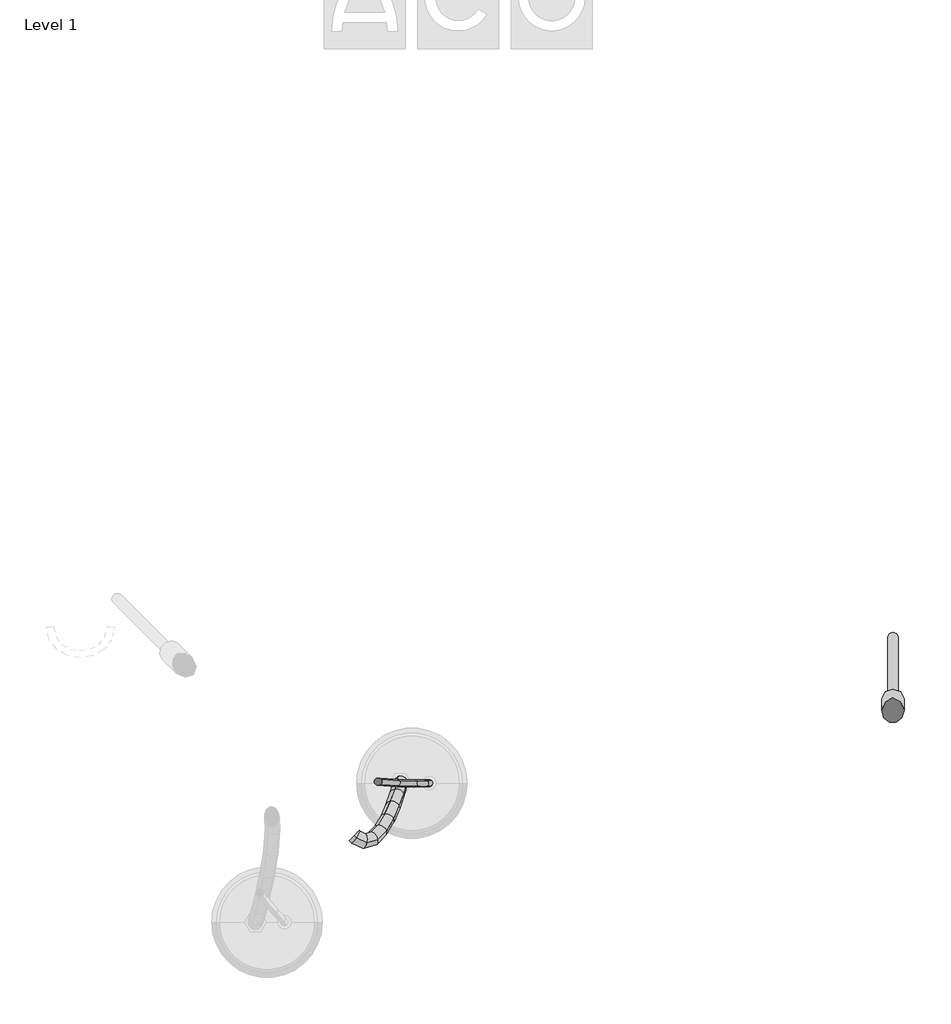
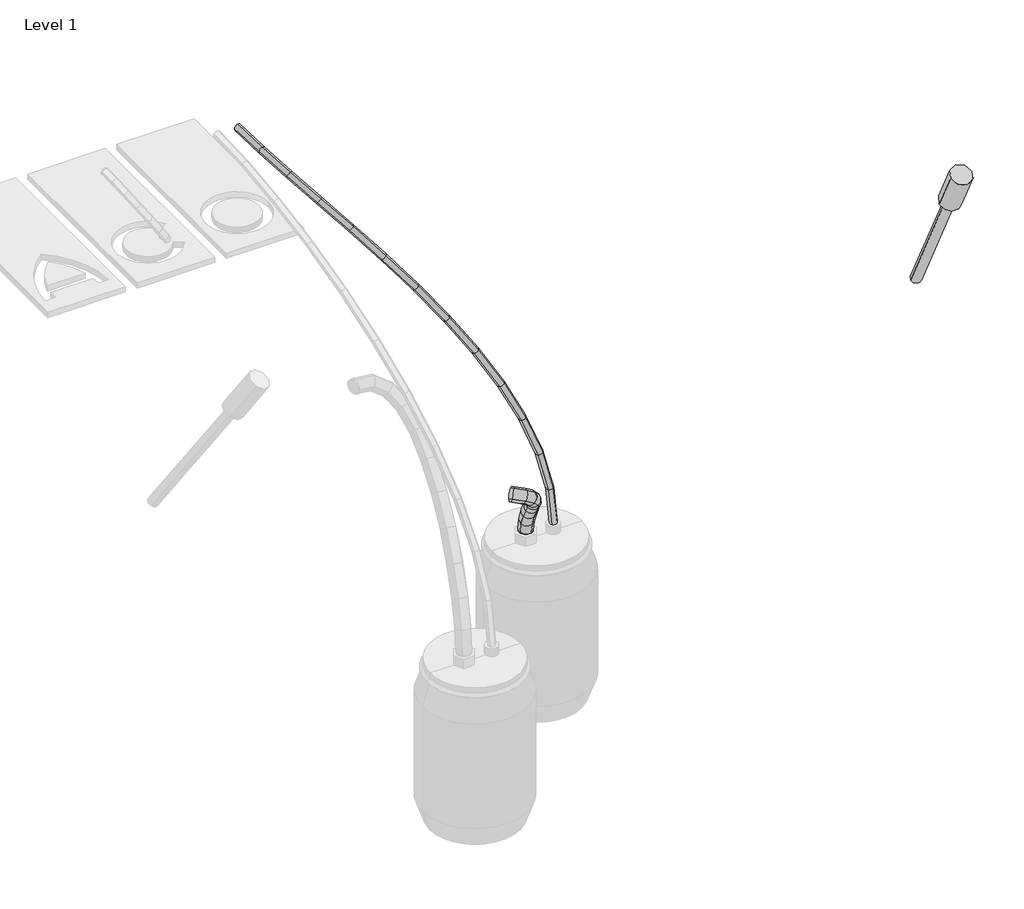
# One storey, part 5 of 6: 2 pipe segments, 1 unitary equipment element.
"""IFC4 building model written with IfcOpenShell, lengths in millimetres."""

from ifc_helpers import new_model, si_unit, frame, origin, place, context, project, spatial, circle_curve, ellipse_curve, transform, mapped, element, save
from ifc_brep_helpers import plane_surface, cylinder_surface, advanced_brep
from components import std_bcf9d813

model = new_model("IFC4")

# Units and contexts
model_context = context("Model", 3, world=origin())
ifc_project = project(units=[si_unit("LENGTHUNIT", "METRE", prefix="MILLI")], contexts=[model_context])

# Site, building, storey
site = spatial("IfcSite", under=ifc_project)
building = spatial("IfcBuilding", under=site)
storey = spatial("IfcBuildingStorey", under=building, Name="Level 1", Elevation=0.0)

# Pipe segments
placement = place(None, origin())
element("IfcPipeSegment", 1, ObjectType="Flex - Round", at=placement, inside=storey, context=model_context, shape_type="AdvancedBrep", body=[
    advanced_brep(
    [(83.9232695, 9731.3828865, 2100.0), (71.335514, 9731.4776729, 2087.5887379), (59.0767305, 9728.6171135, 2100.0), (71.664486, 9728.5223271, 2112.4112621), (97.7160403, 9607.4744445, 2085.0647852), (85.1106413, 9607.7277323, 2072.672628), (73.1897404, 9601.8317785, 2084.718021), (85.7951393, 9601.5784906, 2097.1101783), (909.7093494, 9197.8097262, 628.6281029), (907.7758841, 9180.2401108, 628.362911), (890.2906506, 9182.1902738, 626.6414373), (892.2241159, 9199.7598892, 626.9066292), (135.6816437, 9505.3975849, 2042.8455188), (122.9481285, 9505.9953347, 2030.5958319), (112.9077964, 9495.0431575, 2040.5499573), (125.6413117, 9494.4454077, 2052.7996441), (193.8789391, 9421.4391079, 1975.9243191), (180.9050049, 9422.3836988, 1963.9510906), (173.121516, 9408.1756811, 1971.3100669), (186.0954502, 9407.2310902, 1983.2832954), (268.1241721, 9353.8782932, 1887.1104941), (254.8383235, 9355.1067164, 1875.5103846), (248.9641301, 9339.1613002, 1880.5854186), (262.2499787, 9337.932877, 1892.185528), (353.9561592, 9301.1442983, 1779.5090231), (340.3162648, 9302.5902422, 1768.3527556), (335.8462987, 9285.7820881, 1771.6674095), (349.4861931, 9284.3361441, 1782.823677), (446.803118, 9261.551386, 1656.3522652), (432.7739184, 9263.1633422, 1645.7123913), (429.2892807, 9245.9350125, 1647.7200572), (443.3184803, 9244.3230563, 1658.3599311), (542.0866291, 9233.310396, 1520.882509), (527.6276544, 9235.0497329, 1510.8536699), (524.8209721, 9217.6204646, 1511.8974496), (539.2799469, 9215.8811277, 1521.9262888), (635.2448043, 9214.5778121, 1376.3198976), (620.3056341, 9216.4137084, 1367.0362245), (617.9527378, 9198.8931912, 1367.3758204), (632.891908, 9197.0572949, 1376.6594935), (721.7302609, 9203.4848728, 1225.8566799), (706.2502643, 9205.3901374, 1217.5139104), (704.1814369, 9187.8331845, 1217.359297), (719.6614335, 9185.9279199, 1225.7020665), (797.0023449, 9198.151304, 1072.6528647), (780.9169561, 9200.099465, 1065.5422705), (778.9971999, 9182.5319493, 1065.0842473), (795.0825887, 9180.5837883, 1072.1948416), (856.5136949, 9196.6910839, 919.8266496), (839.7771941, 9198.6552211, 914.3881227), (837.8968649, 9181.086738, 913.8288503), (854.6333658, 9179.1226008, 919.2673772), (895.6807806, 9197.2130041, 770.4421217), (878.3323817, 9199.1689875, 767.3373936), (876.4134388, 9181.5999898, 766.9253954), (893.7618377, 9179.6440064, 770.0301235)],
    [
        (0, 1, circle_curve(frame((71.5, 9730.0, 2100.0), z_axis=(-0.10984554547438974, 0.9868061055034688, 0.11894396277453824), x_axis=(0.9938615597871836, 0.11063091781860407, 0.0)), 12.5)),
        (1, 2, circle_curve(frame((71.5, 9730.0, 2100.0), z_axis=(-0.10984554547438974, 0.9868061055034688, 0.11894396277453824), x_axis=(0.9938615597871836, 0.11063091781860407, 0.0)), 12.5)),
        (2, 3, circle_curve(frame((71.5, 9730.0, 2100.0), z_axis=(-0.10984554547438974, 0.9868061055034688, 0.11894396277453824), x_axis=(0.9938615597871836, 0.11063091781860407, 0.0)), 12.5)),
        (3, 0, circle_curve(frame((71.5, 9730.0, 2100.0), z_axis=(-0.10984554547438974, 0.9868061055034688, 0.11894396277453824), x_axis=(0.9938615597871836, 0.11063091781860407, 0.0)), 12.5)),
        (0, 4),
        (4, 5, ellipse_curve(frame((85.4528903, 9604.6531115, 2084.8914031), z_axis=(-0.22071505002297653, 0.9443722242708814, 0.2438154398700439), x_axis=(0.6268026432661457, 0.32886409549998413, -0.7063758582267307)), 12.6883301, 12.5)),
        (5, 1),
        (5, 6, ellipse_curve(frame((85.4528903, 9604.6531115, 2084.8914031), z_axis=(-0.22071505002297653, 0.9443722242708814, 0.2438154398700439), x_axis=(0.6268026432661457, 0.32886409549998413, -0.7063758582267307)), 12.6883301, 12.5)),
        (6, 2),
        (6, 7, ellipse_curve(frame((85.4528903, 9604.6531115, 2084.8914031), z_axis=(-0.22071505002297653, 0.9443722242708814, 0.2438154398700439), x_axis=(0.6268026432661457, 0.32886409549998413, -0.7063758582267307)), 12.6883301, 12.5)),
        (7, 3),
        (7, 4, ellipse_curve(frame((85.4528903, 9604.6531115, 2084.8914031), z_axis=(-0.22071505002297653, 0.9443722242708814, 0.2438154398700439), x_axis=(0.6268026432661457, 0.32886409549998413, -0.7063758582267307)), 12.6883301, 12.5)),
        (8, 9, circle_curve(frame((900.0, 9190.0, 627.6347701), z_axis=(0.09844095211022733, 0.004187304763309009, -0.9951340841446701), x_axis=(0.7767479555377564, 0.6247780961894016, 0.07946662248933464)), 12.5)),
        (9, 10, circle_curve(frame((900.0, 9190.0, 627.6347701), z_axis=(0.09844095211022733, 0.004187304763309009, -0.9951340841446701), x_axis=(0.7767479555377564, 0.6247780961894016, 0.07946662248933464)), 12.5)),
        (10, 11, circle_curve(frame((900.0, 9190.0, 627.6347701), z_axis=(0.09844095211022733, 0.004187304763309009, -0.9951340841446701), x_axis=(0.7767479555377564, 0.6247780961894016, 0.07946662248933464)), 12.5)),
        (11, 8, circle_curve(frame((900.0, 9190.0, 627.6347701), z_axis=(0.09844095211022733, 0.004187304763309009, -0.9951340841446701), x_axis=(0.7767479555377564, 0.6247780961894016, 0.07946662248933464)), 12.5)),
        (4, 12),
        (12, 13, ellipse_curve(frame((124.2947201, 9500.2203712, 2041.697738), z_axis=(-0.4055025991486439, 0.7898797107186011, 0.4600626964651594), x_axis=(0.49815656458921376, 0.6129514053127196, -0.6132948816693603)), 12.6470867, 12.5)),
        (13, 5),
        (13, 14, ellipse_curve(frame((124.2947201, 9500.2203712, 2041.697738), z_axis=(-0.4055025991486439, 0.7898797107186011, 0.4600626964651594), x_axis=(0.49815656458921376, 0.6129514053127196, -0.6132948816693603)), 12.6470867, 12.5)),
        (14, 6),
        (14, 15, ellipse_curve(frame((124.2947201, 9500.2203712, 2041.697738), z_axis=(-0.4055025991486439, 0.7898797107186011, 0.4600626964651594), x_axis=(0.49815656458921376, 0.6129514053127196, -0.6132948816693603)), 12.6470867, 12.5)),
        (15, 7),
        (15, 12, ellipse_curve(frame((124.2947201, 9500.2203712, 2041.697738), z_axis=(-0.4055025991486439, 0.7898797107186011, 0.4600626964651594), x_axis=(0.49815656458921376, 0.6129514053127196, -0.6132948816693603)), 12.6470867, 12.5)),
        (12, 16),
        (16, 17, ellipse_curve(frame((183.5002276, 9414.8073945, 1973.617193), z_axis=(-0.5186707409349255, 0.5997425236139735, 0.6093353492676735), x_axis=(0.3368835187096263, 0.7983973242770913, -0.49907034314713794)), 12.5832909, 12.5)),
        (17, 13),
        (17, 18, ellipse_curve(frame((183.5002276, 9414.8073945, 1973.617193), z_axis=(-0.5186707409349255, 0.5997425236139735, 0.6093353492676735), x_axis=(0.3368835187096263, 0.7983973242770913, -0.49907034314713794)), 12.5832909, 12.5)),
        (18, 14),
        (18, 19, ellipse_curve(frame((183.5002276, 9414.8073945, 1973.617193), z_axis=(-0.5186707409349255, 0.5997425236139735, 0.6093353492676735), x_axis=(0.3368835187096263, 0.7983973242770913, -0.49907034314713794)), 12.5832909, 12.5)),
        (19, 15),
        (19, 16, ellipse_curve(frame((183.5002276, 9414.8073945, 1973.617193), z_axis=(-0.5186707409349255, 0.5997425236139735, 0.6093353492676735), x_axis=(0.3368835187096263, 0.7983973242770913, -0.49907034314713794)), 12.5832909, 12.5)),
        (16, 20),
        (20, 21, ellipse_curve(frame((258.5441511, 9346.5197967, 1883.8479563), z_axis=(-0.570034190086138, 0.4323628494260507, 0.6986582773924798), x_axis=(0.17353404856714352, 0.8945148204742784, -0.4119820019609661)), 12.5420045, 12.5)),
        (21, 17),
        (21, 22, ellipse_curve(frame((258.5441511, 9346.5197967, 1883.8479563), z_axis=(-0.570034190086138, 0.4323628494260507, 0.6986582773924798), x_axis=(0.17353404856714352, 0.8945148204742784, -0.4119820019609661)), 12.5420045, 12.5)),
        (22, 18),
        (22, 23, ellipse_curve(frame((258.5441511, 9346.5197967, 1883.8479563), z_axis=(-0.570034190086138, 0.4323628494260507, 0.6986582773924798), x_axis=(0.17353404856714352, 0.8945148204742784, -0.4119820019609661)), 12.5420045, 12.5)),
        (23, 19),
        (23, 20, ellipse_curve(frame((258.5441511, 9346.5197967, 1883.8479563), z_axis=(-0.570034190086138, 0.4323628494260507, 0.6986582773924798), x_axis=(0.17353404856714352, 0.8945148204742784, -0.4119820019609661)), 12.5420045, 12.5)),
        (20, 24),
        (24, 25, ellipse_curve(frame((344.9012289, 9293.4631932, 1775.5882163), z_axis=(-0.583706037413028, 0.3037298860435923, 0.7530175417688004), x_axis=(0.006523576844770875, 0.9291257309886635, -0.3697063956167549)), 12.5216083, 12.5)),
        (25, 21),
        (25, 26, ellipse_curve(frame((344.9012289, 9293.4631932, 1775.5882163), z_axis=(-0.583706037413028, 0.3037298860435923, 0.7530175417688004), x_axis=(0.006523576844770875, 0.9291257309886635, -0.3697063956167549)), 12.5216083, 12.5)),
        (26, 22),
        (26, 27, ellipse_curve(frame((344.9012289, 9293.4631932, 1775.5882163), z_axis=(-0.583706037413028, 0.3037298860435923, 0.7530175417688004), x_axis=(0.006523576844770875, 0.9291257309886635, -0.3697063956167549)), 12.5216083, 12.5)),
        (27, 23),
        (27, 24, ellipse_curve(frame((344.9012289, 9293.4631932, 1775.5882163), z_axis=(-0.583706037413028, 0.3037298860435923, 0.7530175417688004), x_axis=(0.006523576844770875, 0.9291257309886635, -0.3697063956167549)), 12.5216083, 12.5)),
        (24, 28),
        (28, 29, ellipse_curve(frame((438.0461994, 9253.7431993, 1652.0361612), z_axis=(-0.5756632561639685, 0.20857025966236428, 0.7906391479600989), x_axis=(-0.1804657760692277, 0.9106712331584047, -0.37163154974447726)), 12.5122446, 12.5)),
        (29, 25),
        (29, 30, ellipse_curve(frame((438.0461994, 9253.7431993, 1652.0361612), z_axis=(-0.5756632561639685, 0.20857025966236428, 0.7906391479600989), x_axis=(-0.1804657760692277, 0.9106712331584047, -0.37163154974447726)), 12.5122446, 12.5)),
        (30, 26),
        (30, 31, ellipse_curve(frame((438.0461994, 9253.7431993, 1652.0361612), z_axis=(-0.5756632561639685, 0.20857025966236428, 0.7906391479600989), x_axis=(-0.1804657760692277, 0.9106712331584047, -0.37163154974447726)), 12.5122446, 12.5)),
        (31, 27),
        (31, 28, ellipse_curve(frame((438.0461994, 9253.7431993, 1652.0361612), z_axis=(-0.5756632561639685, 0.20857025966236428, 0.7906391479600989), x_axis=(-0.1804657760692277, 0.9106712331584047, -0.37163154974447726)), 12.5122446, 12.5)),
        (28, 32),
        (32, 33, ellipse_curve(frame((533.4538006, 9225.4654303, 1516.3899793), z_axis=(-0.553171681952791, 0.13827625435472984, 0.8215112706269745), x_axis=(-0.39475160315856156, 0.8248802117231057, -0.40465270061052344)), 12.5082212, 12.5)),
        (33, 29),
        (33, 34, ellipse_curve(frame((533.4538006, 9225.4654303, 1516.3899793), z_axis=(-0.553171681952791, 0.13827625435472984, 0.8215112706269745), x_axis=(-0.39475160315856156, 0.8248802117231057, -0.40465270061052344)), 12.5082212, 12.5)),
        (34, 30),
        (34, 35, ellipse_curve(frame((533.4538006, 9225.4654303, 1516.3899793), z_axis=(-0.553171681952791, 0.13827625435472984, 0.8215112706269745), x_axis=(-0.39475160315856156, 0.8248802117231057, -0.40465270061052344)), 12.5082212, 12.5)),
        (35, 31),
        (35, 32, ellipse_curve(frame((533.4538006, 9225.4654303, 1516.3899793), z_axis=(-0.553171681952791, 0.13827625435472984, 0.8215112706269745), x_axis=(-0.39475160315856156, 0.8248802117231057, -0.40465270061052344)), 12.5082212, 12.5)),
        (32, 36),
        (36, 37, ellipse_curve(frame((626.5987711, 9206.7355017, 1371.847859), z_axis=(-0.5182051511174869, 0.08608475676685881, 0.8509129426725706), x_axis=(-0.6104265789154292, 0.6596306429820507, -0.43848239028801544)), 12.5071155, 12.5)),
        (37, 33),
        (37, 38, ellipse_curve(frame((626.5987711, 9206.7355017, 1371.847859), z_axis=(-0.5182051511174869, 0.08608475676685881, 0.8509129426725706), x_axis=(-0.6104265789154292, 0.6596306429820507, -0.43848239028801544)), 12.5071155, 12.5)),
        (38, 34),
        (38, 39, ellipse_curve(frame((626.5987711, 9206.7355017, 1371.847859), z_axis=(-0.5182051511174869, 0.08608475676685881, 0.8509129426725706), x_axis=(-0.6104265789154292, 0.6596306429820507, -0.43848239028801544)), 12.5071155, 12.5)),
        (39, 35),
        (39, 36, ellipse_curve(frame((626.5987711, 9206.7355017, 1371.847859), z_axis=(-0.5182051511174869, 0.08608475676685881, 0.8509129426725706), x_axis=(-0.6104265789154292, 0.6596306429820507, -0.43848239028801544)), 12.5071155, 12.5)),
        (36, 40),
        (40, 41, ellipse_curve(frame((712.9558489, 9195.6590286, 1221.6079885), z_axis=(-0.469348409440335, 0.04754089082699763, 0.8817323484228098), x_axis=(-0.7788263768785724, 0.4482592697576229, -0.438740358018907)), 12.5082509, 12.5)),
        (41, 37),
        (41, 42, ellipse_curve(frame((712.9558489, 9195.6590286, 1221.6079885), z_axis=(-0.469348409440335, 0.04754089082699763, 0.8817323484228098), x_axis=(-0.7788263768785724, 0.4482592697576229, -0.438740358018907)), 12.5082509, 12.5)),
        (42, 38),
        (42, 43, ellipse_curve(frame((712.9558489, 9195.6590286, 1221.6079885), z_axis=(-0.469348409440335, 0.04754089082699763, 0.8817323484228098), x_axis=(-0.7788263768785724, 0.4482592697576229, -0.438740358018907)), 12.5082509, 12.5)),
        (43, 39),
        (43, 40, ellipse_curve(frame((712.9558489, 9195.6590286, 1221.6079885), z_axis=(-0.469348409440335, 0.04754089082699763, 0.8817323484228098), x_axis=(-0.7788263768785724, 0.4482592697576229, -0.438740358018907)), 12.5082509, 12.5)),
        (40, 44),
        (44, 45, ellipse_curve(frame((787.9997724, 9190.3416266, 1068.868556), z_axis=(-0.4021935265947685, 0.02008645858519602, 0.9153343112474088), x_axis=(-0.8836167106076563, 0.2532427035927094, -0.393814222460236)), 12.5121635, 12.5)),
        (45, 41),
        (45, 46, ellipse_curve(frame((787.9997724, 9190.3416266, 1068.868556), z_axis=(-0.4021935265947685, 0.02008645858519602, 0.9153343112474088), x_axis=(-0.8836167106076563, 0.2532427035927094, -0.393814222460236)), 12.5121635, 12.5)),
        (46, 42),
        (46, 47, ellipse_curve(frame((787.9997724, 9190.3416266, 1068.868556), z_axis=(-0.4021935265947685, 0.02008645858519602, 0.9153343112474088), x_axis=(-0.8836167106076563, 0.2532427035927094, -0.393814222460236)), 12.5121635, 12.5)),
        (47, 43),
        (47, 44, ellipse_curve(frame((787.9997724, 9190.3416266, 1068.868556), z_axis=(-0.4021935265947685, 0.02008645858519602, 0.9153343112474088), x_axis=(-0.8836167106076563, 0.2532427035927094, -0.393814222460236)), 12.5121635, 12.5)),
        (44, 48),
        (48, 49, ellipse_curve(frame((847.2052799, 9188.888911, 916.8277499), z_axis=(-0.3087482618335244, 0.002766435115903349, 0.9511397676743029), x_axis=(-0.9456599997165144, 0.10633404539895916, -0.3072787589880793)), 12.5209004, 12.5)),
        (49, 45),
        (49, 50, ellipse_curve(frame((847.2052799, 9188.888911, 916.8277499), z_axis=(-0.3087482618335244, 0.002766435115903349, 0.9511397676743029), x_axis=(-0.9456599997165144, 0.10633404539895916, -0.3072787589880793)), 12.5209004, 12.5)),
        (50, 46),
        (50, 51, ellipse_curve(frame((847.2052799, 9188.888911, 916.8277499), z_axis=(-0.3087482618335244, 0.002766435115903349, 0.9511397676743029), x_axis=(-0.9456599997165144, 0.10633404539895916, -0.3072787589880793)), 12.5209004, 12.5)),
        (51, 47),
        (51, 48, ellipse_curve(frame((847.2052799, 9188.888911, 916.8277499), z_axis=(-0.3087482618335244, 0.002766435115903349, 0.9511397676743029), x_axis=(-0.9456599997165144, 0.10633404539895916, -0.3072787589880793)), 12.5209004, 12.5)),
        (48, 52),
        (52, 53, ellipse_curve(frame((886.0471097, 9189.406497, 768.6837586), z_axis=(-0.17657786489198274, -0.003795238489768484, 0.9842793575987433), x_axis=(-0.9842769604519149, 0.005123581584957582, -0.17655767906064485)), 12.5390174, 12.5)),
        (53, 49),
        (53, 54, ellipse_curve(frame((886.0471097, 9189.406497, 768.6837586), z_axis=(-0.17657786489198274, -0.003795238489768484, 0.9842793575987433), x_axis=(-0.9842769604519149, 0.005123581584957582, -0.17655767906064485)), 12.5390174, 12.5)),
        (54, 50),
        (54, 55, ellipse_curve(frame((886.0471097, 9189.406497, 768.6837586), z_axis=(-0.17657786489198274, -0.003795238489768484, 0.9842793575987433), x_axis=(-0.9842769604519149, 0.005123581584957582, -0.17655767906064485)), 12.5390174, 12.5)),
        (55, 51),
        (55, 52, ellipse_curve(frame((886.0471097, 9189.406497, 768.6837586), z_axis=(-0.17657786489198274, -0.003795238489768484, 0.9842793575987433), x_axis=(-0.9842769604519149, 0.005123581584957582, -0.17655767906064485)), 12.5390174, 12.5)),
        (52, 8),
        (11, 53),
        (10, 54),
        (9, 55),
    ],
    [
        plane_surface(frame((71.5, 9731.4958514, 2087.5898256), z_axis=(-0.10984554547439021, 0.9868061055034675, 0.11894396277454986), x_axis=(0.9939486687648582, 0.10905619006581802, 0.01314500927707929))),
        cylinder_surface(frame((71.5, 9730.0, 2100.0), z_axis=(-0.10984554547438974, 0.9868061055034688, 0.11894396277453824), x_axis=(0.9938615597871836, 0.11063091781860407, 0.0)), 12.5),
        plane_surface(frame((900.0, 9202.4998893, 627.6873669), z_axis=(0.09844095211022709, 0.0041873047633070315, -0.9951340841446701), x_axis=(0.9951428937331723, -0.000414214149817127, 0.09844008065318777))),
        cylinder_surface(frame((85.4528903, 9604.6531115, 2084.8914031), z_axis=(-0.32503250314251, 0.8739041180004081, 0.36144911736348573), x_axis=(0.9431485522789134, 0.32761637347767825, 0.05602071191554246)), 12.5),
        cylinder_surface(frame((124.2947201, 9500.2203712, 2041.697738), z_axis=(-0.47654063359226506, 0.6874825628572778, 0.5479751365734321), x_axis=(0.8637522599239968, 0.4822726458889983, 0.1460997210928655)), 12.5),
        cylinder_surface(frame((183.5002276, 9414.8073945, 1973.617193), z_axis=(-0.5539345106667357, 0.5040628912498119, 0.6626289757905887), x_axis=(0.7914081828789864, 0.5659245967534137, 0.2310896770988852)), 12.5),
        cylinder_surface(frame((258.5441511, 9346.5197967, 1883.8479563), z_axis=(-0.5823156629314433, 0.3577667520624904, 0.7300078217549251), x_axis=(0.7401139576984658, 0.6048305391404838, 0.29395807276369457)), 12.5),
        cylinder_surface(frame((344.9012289, 9293.4631932, 1775.5882163), z_axis=(-0.5830818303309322, 0.24864473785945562, 0.7734283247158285), x_axis=(0.7086541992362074, 0.6212005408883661, 0.33454314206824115)), 12.5),
        cylinder_surface(frame((438.0461994, 9253.7431993, 1652.0361612), z_axis=(-0.5671179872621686, 0.16808756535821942, 0.8063025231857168), x_axis=(0.6926745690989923, 0.6269901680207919, 0.3564902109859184)), 12.5),
        cylinder_surface(frame((533.4538006, 9225.4654303, 1516.3899793), z_axis=(-0.5384982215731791, 0.10828317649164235, 0.8356401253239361), x_axis=(0.688681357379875, 0.6279883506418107, 0.36242050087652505)), 12.5),
        cylinder_surface(frame((626.5987711, 9206.7355017, 1371.847859), z_axis=(-0.49732244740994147, 0.06378838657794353, 0.8652175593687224), x_axis=(0.6944544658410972, 0.6270293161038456, 0.3529408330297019)), 12.5),
        cylinder_surface(frame((712.9558489, 9195.6590286, 1221.6079885), z_axis=(-0.44075517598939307, 0.031230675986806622, 0.8970838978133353), x_axis=(0.7085985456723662, 0.6255966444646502, 0.32636932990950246)), 12.5),
        cylinder_surface(frame((787.9997724, 9190.3416266, 1068.868556), z_axis=(-0.36284990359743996, 0.00890318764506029, 0.9318050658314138), x_axis=(0.7297614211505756, 0.6245397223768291, 0.27820568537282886)), 12.5),
        cylinder_surface(frame((847.2052799, 9188.888911, 916.8277499), z_axis=(-0.2536158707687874, -0.003379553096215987, 0.9672991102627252), x_axis=(0.7550958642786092, 0.624312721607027, 0.20015958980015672)), 12.5),
        cylinder_surface(frame((886.0471097, 9189.406497, 768.6837586), z_axis=(-0.09844095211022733, -0.004187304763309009, 0.9951340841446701), x_axis=(0.7767479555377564, 0.6247780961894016, 0.07946662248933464)), 12.5),
    ],
    [
        (0, [[1, 2, 3, 4]]),
        (1, [[-1, 5, 6, 7]]),
        (1, [[-2, -7, 8, 9]]),
        (1, [[-3, -9, 10, 11]]),
        (1, [[-4, -11, 12, -5]]),
        (2, [[13, 14, 15, 16]]),
        (3, [[-6, 17, 18, 19]]),
        (3, [[-8, -19, 20, 21]]),
        (3, [[-10, -21, 22, 23]]),
        (3, [[-12, -23, 24, -17]]),
        (4, [[-18, 25, 26, 27]]),
        (4, [[-20, -27, 28, 29]]),
        (4, [[-22, -29, 30, 31]]),
        (4, [[-24, -31, 32, -25]]),
        (5, [[-26, 33, 34, 35]]),
        (5, [[-28, -35, 36, 37]]),
        (5, [[-30, -37, 38, 39]]),
        (5, [[-32, -39, 40, -33]]),
        (6, [[-34, 41, 42, 43]]),
        (6, [[-36, -43, 44, 45]]),
        (6, [[-38, -45, 46, 47]]),
        (6, [[-40, -47, 48, -41]]),
        (7, [[-42, 49, 50, 51]]),
        (7, [[-44, -51, 52, 53]]),
        (7, [[-46, -53, 54, 55]]),
        (7, [[-48, -55, 56, -49]]),
        (8, [[-50, 57, 58, 59]]),
        (8, [[-52, -59, 60, 61]]),
        (8, [[-54, -61, 62, 63]]),
        (8, [[-56, -63, 64, -57]]),
        (9, [[-58, 65, 66, 67]]),
        (9, [[-60, -67, 68, 69]]),
        (9, [[-62, -69, 70, 71]]),
        (9, [[-64, -71, 72, -65]]),
        (10, [[-66, 73, 74, 75]]),
        (10, [[-68, -75, 76, 77]]),
        (10, [[-70, -77, 78, 79]]),
        (10, [[-72, -79, 80, -73]]),
        (11, [[-74, 81, 82, 83]]),
        (11, [[-76, -83, 84, 85]]),
        (11, [[-78, -85, 86, 87]]),
        (11, [[-80, -87, 88, -81]]),
        (12, [[-82, 89, 90, 91]]),
        (12, [[-84, -91, 92, 93]]),
        (12, [[-86, -93, 94, 95]]),
        (12, [[-88, -95, 96, -89]]),
        (13, [[-90, 97, 98, 99]]),
        (13, [[-92, -99, 100, 101]]),
        (13, [[-94, -101, 102, 103]]),
        (13, [[-96, -103, 104, -97]]),
        (14, [[-98, 105, -16, 106]]),
        (14, [[-100, -106, -15, 107]]),
        (14, [[-102, -107, -14, 108]]),
        (14, [[-104, -108, -13, -105]]),
    ],
),
])
element("IfcPipeSegment", 2, ObjectType="Flex - Round", at=placement, inside=storey, context=model_context, shape_type="AdvancedBrep", body=[
    advanced_brep(
    [(658.9933178, 9026.3620213, 937.0), (641.3156483, 9008.6843517, 912.0), (623.6379787, 8991.0066822, 937.0), (641.3156483, 9008.6843517, 962.0), (660.9472298, 9024.4081092, 937.0), (644.0134256, 9005.9865744, 912.0), (631.5236986, 8983.1209623, 937.0), (648.4575029, 9001.5424971, 962.0), (793.3660076, 9214.1037371, 633.6079188), (824.1037371, 9196.6339924, 633.6079188), (806.6339924, 9165.8962629, 633.6079188), (775.8962629, 9183.3660076, 633.6079188), (678.8302374, 9015.8169684, 932.0775364), (664.0998384, 8996.3369, 906.4710287), (669.8747225, 8964.6968217, 926.4435252), (684.6051215, 8984.1768901, 952.050033), (699.9586092, 9021.5612576, 917.0735264), (686.6245924, 9002.4608315, 890.4753979), (709.3114317, 8975.4187015, 898.4381121), (722.6454485, 8994.5191276, 925.0362406), (724.1018728, 9046.0745685, 887.8549777), (710.6660614, 9026.8707876, 861.3800426), (739.2071613, 9005.7726473, 862.2578407), (752.6429728, 9024.9764283, 888.7327758), (746.731583, 9084.2073824, 847.629911), (732.7388306, 9064.0651128, 822.1449571), (763.0728515, 9045.9881831, 819.8357782), (777.0656039, 9066.1304528, 845.3207321), (765.7759256, 9127.8389564, 800.0599223), (751.0298994, 9105.9708974, 776.4565366), (781.9628108, 9089.2660572, 772.6514163), (796.7088371, 9111.1341161, 796.2548021), (780.3841749, 9169.3368775, 747.6557048), (764.6698318, 9144.7181033, 727.5259649), (795.71026, 9128.3186876, 723.3351498), (811.4246031, 9152.9374618, 743.4648897), (789.9084491, 9201.1236226, 692.1253665), (773.0636374, 9172.731971, 678.5867121), (803.9455754, 9155.8036029, 675.3199585), (820.7903871, 9184.1952545, 688.8586129), (793.3660076, 9214.1037371, 642.2575532), (775.8962629, 9183.3660076, 637.7322076), (806.6339924, 9165.8962629, 636.5453482), (824.1037371, 9196.6339924, 641.0706938)],
    [
        (0, 1, circle_curve(frame((641.3156483, 9008.6843517, 937.0), z_axis=(-0.7071067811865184, 0.7071067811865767, 0.0), x_axis=(0.7071067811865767, 0.7071067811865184, 0.0)), 25.0)),
        (1, 2, circle_curve(frame((641.3156483, 9008.6843517, 937.0), z_axis=(-0.7071067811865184, 0.7071067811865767, 0.0), x_axis=(0.7071067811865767, 0.7071067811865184, 0.0)), 25.0)),
        (2, 3, circle_curve(frame((641.3156483, 9008.6843517, 937.0), z_axis=(-0.7071067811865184, 0.7071067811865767, 0.0), x_axis=(0.7071067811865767, 0.7071067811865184, 0.0)), 25.0)),
        (3, 0, circle_curve(frame((641.3156483, 9008.6843517, 937.0), z_axis=(-0.7071067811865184, 0.7071067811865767, 0.0), x_axis=(0.7071067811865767, 0.7071067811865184, 0.0)), 25.0)),
        (0, 4),
        (4, 5, ellipse_curve(frame((646.2354642, 9003.7645358, 937.0), z_axis=(-0.808174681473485, 0.5759505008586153, 0.12302318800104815), x_axis=(0.408780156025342, 0.6989481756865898, -0.5868306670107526)), 25.5434548, 25.0)),
        (5, 1),
        (5, 6, ellipse_curve(frame((646.2354642, 9003.7645358, 937.0), z_axis=(-0.808174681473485, 0.5759505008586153, 0.12302318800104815), x_axis=(0.408780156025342, 0.6989481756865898, -0.5868306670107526)), 25.5434548, 25.0)),
        (6, 2),
        (6, 7, ellipse_curve(frame((646.2354642, 9003.7645358, 937.0), z_axis=(-0.808174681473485, 0.5759505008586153, 0.12302318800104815), x_axis=(0.408780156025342, 0.6989481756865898, -0.5868306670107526)), 25.5434548, 25.0)),
        (7, 3),
        (7, 4, ellipse_curve(frame((646.2354642, 9003.7645358, 937.0), z_axis=(-0.808174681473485, 0.5759505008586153, 0.12302318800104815), x_axis=(0.408780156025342, 0.6989481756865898, -0.5868306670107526)), 25.5434548, 25.0)),
        (8, 9, circle_curve(frame((800.0, 9190.0, 633.6079188), z_axis=(0.0, 0.0, -1.0), x_axis=(-0.26535969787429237, 0.9641494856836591, 0.0)), 25.0)),
        (9, 10, circle_curve(frame((800.0, 9190.0, 633.6079188), z_axis=(0.0, 0.0, -1.0), x_axis=(-0.26535969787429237, 0.9641494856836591, 0.0)), 25.0)),
        (10, 11, circle_curve(frame((800.0, 9190.0, 633.6079188), z_axis=(0.0, 0.0, -1.0), x_axis=(-0.26535969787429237, 0.9641494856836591, 0.0)), 25.0)),
        (11, 8, circle_curve(frame((800.0, 9190.0, 633.6079188), z_axis=(0.0, 0.0, -1.0), x_axis=(-0.26535969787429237, 0.9641494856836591, 0.0)), 25.0)),
        (4, 12),
        (12, 13, ellipse_curve(frame((674.35248, 8990.256895, 929.2605308), z_axis=(-0.8952751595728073, 0.10923761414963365, 0.4319138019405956), x_axis=(-0.10966770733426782, 0.8856060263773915, -0.45130362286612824)), 26.7908139, 25.0)),
        (13, 5),
        (13, 14, ellipse_curve(frame((674.35248, 8990.256895, 929.2605308), z_axis=(-0.8952751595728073, 0.10923761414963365, 0.4319138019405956), x_axis=(-0.10966770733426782, 0.8856060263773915, -0.45130362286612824)), 26.7908139, 25.0)),
        (14, 6),
        (14, 15, ellipse_curve(frame((674.35248, 8990.256895, 929.2605308), z_axis=(-0.8952751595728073, 0.10923761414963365, 0.4319138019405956), x_axis=(-0.10966770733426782, 0.8856060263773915, -0.45130362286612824)), 26.7908139, 25.0)),
        (15, 7),
        (15, 12, ellipse_curve(frame((674.35248, 8990.256895, 929.2605308), z_axis=(-0.8952751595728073, 0.10923761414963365, 0.4319138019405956), x_axis=(-0.10966770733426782, 0.8856060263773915, -0.45130362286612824)), 26.7908139, 25.0)),
        (12, 16),
        (16, 17, ellipse_curve(frame((704.6350204, 8998.4899796, 907.7558193), z_axis=(-0.6810792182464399, -0.38866581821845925, 0.620540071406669), x_axis=(-0.6127627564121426, 0.7664687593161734, -0.19247712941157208)), 25.5876632, 25.0)),
        (17, 13),
        (17, 18, ellipse_curve(frame((704.6350204, 8998.4899796, 907.7558193), z_axis=(-0.6810792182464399, -0.38866581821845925, 0.620540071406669), x_axis=(-0.6127627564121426, 0.7664687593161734, -0.19247712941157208)), 25.5876632, 25.0)),
        (18, 14),
        (18, 19, ellipse_curve(frame((704.6350204, 8998.4899796, 907.7558193), z_axis=(-0.6810792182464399, -0.38866581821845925, 0.620540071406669), x_axis=(-0.6127627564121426, 0.7664687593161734, -0.19247712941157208)), 25.5876632, 25.0)),
        (19, 15),
        (19, 16, ellipse_curve(frame((704.6350204, 8998.4899796, 907.7558193), z_axis=(-0.6810792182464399, -0.38866581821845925, 0.620540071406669), x_axis=(-0.6127627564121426, 0.7664687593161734, -0.19247712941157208)), 25.5876632, 25.0)),
        (16, 20),
        (20, 21, ellipse_curve(frame((731.6545171, 9025.9236079, 875.0564092), z_axis=(-0.45838091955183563, -0.5925273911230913, 0.6624184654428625), x_axis=(-0.8504408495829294, 0.5089089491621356, -0.1332743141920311)), 25.1070195, 25.0)),
        (21, 17),
        (21, 22, ellipse_curve(frame((731.6545171, 9025.9236079, 875.0564092), z_axis=(-0.45838091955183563, -0.5925273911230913, 0.6624184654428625), x_axis=(-0.8504408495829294, 0.5089089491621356, -0.1332743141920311)), 25.1070195, 25.0)),
        (22, 18),
        (22, 23, ellipse_curve(frame((731.6545171, 9025.9236079, 875.0564092), z_axis=(-0.45838091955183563, -0.5925273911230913, 0.6624184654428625), x_axis=(-0.8504408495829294, 0.5089089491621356, -0.1332743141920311)), 25.1070195, 25.0)),
        (23, 19),
        (23, 20, ellipse_curve(frame((731.6545171, 9025.9236079, 875.0564092), z_axis=(-0.45838091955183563, -0.5925273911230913, 0.6624184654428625), x_axis=(-0.8504408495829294, 0.5089089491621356, -0.1332743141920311)), 25.1070195, 25.0)),
        (20, 24),
        (24, 25, ellipse_curve(frame((754.9022172, 9065.0977828, 833.7328446), z_axis=(-0.33091198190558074, -0.6434619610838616, 0.6902564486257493), x_axis=(-0.93266072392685, 0.11164686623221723, -0.34304365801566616)), 25.0324942, 25.0)),
        (25, 21),
        (25, 26, ellipse_curve(frame((754.9022172, 9065.0977828, 833.7328446), z_axis=(-0.33091198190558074, -0.6434619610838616, 0.6902564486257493), x_axis=(-0.93266072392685, 0.11164686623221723, -0.34304365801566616)), 25.0324942, 25.0)),
        (26, 22),
        (26, 27, ellipse_curve(frame((754.9022172, 9065.0977828, 833.7328446), z_axis=(-0.33091198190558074, -0.6434619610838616, 0.6902564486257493), x_axis=(-0.93266072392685, 0.11164686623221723, -0.34304365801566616)), 25.0324942, 25.0)),
        (27, 23),
        (27, 24, ellipse_curve(frame((754.9022172, 9065.0977828, 833.7328446), z_axis=(-0.33091198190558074, -0.6434619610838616, 0.6902564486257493), x_axis=(-0.93266072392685, 0.11164686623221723, -0.34304365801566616)), 25.0324942, 25.0)),
        (24, 28),
        (28, 29, ellipse_curve(frame((773.8693682, 9108.5525068, 786.3556693), z_axis=(-0.24855090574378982, -0.6281937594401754, 0.7372889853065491), x_axis=(-0.692573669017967, -0.41688996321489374, -0.588680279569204)), 25.0315077, 25.0)),
        (29, 25),
        (29, 30, ellipse_curve(frame((773.8693682, 9108.5525068, 786.3556693), z_axis=(-0.24855090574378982, -0.6281937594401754, 0.7372889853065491), x_axis=(-0.692573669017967, -0.41688996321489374, -0.588680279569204)), 25.0315077, 25.0)),
        (30, 26),
        (30, 31, ellipse_curve(frame((773.8693682, 9108.5525068, 786.3556693), z_axis=(-0.24855090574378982, -0.6281937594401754, 0.7372889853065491), x_axis=(-0.692573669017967, -0.41688996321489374, -0.588680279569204)), 25.0315077, 25.0)),
        (31, 27),
        (31, 28, ellipse_curve(frame((773.8693682, 9108.5525068, 786.3556693), z_axis=(-0.24855090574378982, -0.6281937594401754, 0.7372889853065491), x_axis=(-0.692573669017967, -0.41688996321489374, -0.588680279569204)), 25.0315077, 25.0)),
        (28, 32),
        (32, 33, ellipse_curve(frame((788.0472175, 9148.8277825, 735.4954273), z_axis=(-0.18095891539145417, -0.5507404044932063, 0.8148244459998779), x_axis=(-0.4093740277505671, -0.7111375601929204, -0.5715735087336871)), 25.0822945, 25.0)),
        (33, 29),
        (33, 34, ellipse_curve(frame((788.0472175, 9148.8277825, 735.4954273), z_axis=(-0.18095891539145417, -0.5507404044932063, 0.8148244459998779), x_axis=(-0.4093740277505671, -0.7111375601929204, -0.5715735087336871)), 25.0822945, 25.0)),
        (34, 30),
        (34, 35, ellipse_curve(frame((788.0472175, 9148.8277825, 735.4954273), z_axis=(-0.18095891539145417, -0.5507404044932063, 0.8148244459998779), x_axis=(-0.4093740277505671, -0.7111375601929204, -0.5715735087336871)), 25.0822945, 25.0)),
        (35, 31),
        (35, 32, ellipse_curve(frame((788.0472175, 9148.8277825, 735.4954273), z_axis=(-0.18095891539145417, -0.5507404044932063, 0.8148244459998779), x_axis=(-0.4093740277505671, -0.7111375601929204, -0.5715735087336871)), 25.0822945, 25.0)),
        (32, 36),
        (36, 37, ellipse_curve(frame((796.9270123, 9178.4636127, 683.7226625), z_axis=(-0.10811531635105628, -0.374910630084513, 0.9207350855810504), x_axis=(-0.29207969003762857, -0.8733098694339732, -0.38989655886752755)), 25.2394943, 25.0)),
        (37, 33),
        (37, 38, ellipse_curve(frame((796.9270123, 9178.4636127, 683.7226625), z_axis=(-0.10811531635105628, -0.374910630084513, 0.9207350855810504), x_axis=(-0.29207969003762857, -0.8733098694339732, -0.38989655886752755)), 25.2394943, 25.0)),
        (38, 34),
        (38, 39, ellipse_curve(frame((796.9270123, 9178.4636127, 683.7226625), z_axis=(-0.10811531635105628, -0.374910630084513, 0.9207350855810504), x_axis=(-0.29207969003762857, -0.8733098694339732, -0.38989655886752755)), 25.2394943, 25.0)),
        (39, 35),
        (39, 36, ellipse_curve(frame((796.9270123, 9178.4636127, 683.7226625), z_axis=(-0.10811531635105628, -0.374910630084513, 0.9207350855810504), x_axis=(-0.29207969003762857, -0.8733098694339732, -0.38989655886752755)), 25.2394943, 25.0)),
        (36, 40),
        (40, 41, ellipse_curve(frame((800.0, 9190.0, 639.4014507), z_axis=(-0.033765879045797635, -0.12676140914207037, 0.9913583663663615), x_axis=(-0.25517381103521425, -0.9579549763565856, -0.13118151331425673)), 25.2179241, 25.0)),
        (41, 37),
        (41, 42, ellipse_curve(frame((800.0, 9190.0, 639.4014507), z_axis=(-0.033765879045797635, -0.12676140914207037, 0.9913583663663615), x_axis=(-0.25517381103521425, -0.9579549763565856, -0.13118151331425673)), 25.2179241, 25.0)),
        (42, 38),
        (42, 43, ellipse_curve(frame((800.0, 9190.0, 639.4014507), z_axis=(-0.033765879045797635, -0.12676140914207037, 0.9913583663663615), x_axis=(-0.25517381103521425, -0.9579549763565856, -0.13118151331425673)), 25.2179241, 25.0)),
        (43, 39),
        (43, 40, ellipse_curve(frame((800.0, 9190.0, 639.4014507), z_axis=(-0.033765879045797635, -0.12676140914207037, 0.9913583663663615), x_axis=(-0.25517381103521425, -0.9579549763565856, -0.13118151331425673)), 25.2179241, 25.0)),
        (40, 8),
        (11, 41),
        (10, 42),
        (9, 43),
    ],
    [
        plane_surface(frame((641.3156483, 9008.6843517, 912.0), z_axis=(-0.707106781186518, 0.7071067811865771, 0.0), x_axis=(0.7071067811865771, 0.707106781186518, 0.0))),
        cylinder_surface(frame((641.3156483, 9008.6843517, 937.0), z_axis=(-0.7071067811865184, 0.7071067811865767, 0.0), x_axis=(0.7071067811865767, 0.7071067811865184, 0.0)), 25.0),
        plane_surface(frame((800.0, 9165.0, 633.6079188), z_axis=(0.0, 0.0, -1.0), x_axis=(-1.0, 0.0, 0.0))),
        cylinder_surface(frame((646.2354642, 9003.7645358, 937.0), z_axis=(-0.8748536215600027, 0.4202867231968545, 0.24081156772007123), x_axis=(0.44169042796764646, 0.8962573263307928, 0.04040260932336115)), 25.0),
        cylinder_surface(frame((674.35248, 8990.256895, 929.2605308), z_axis=(-0.7960085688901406, -0.21641532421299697, 0.5652740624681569), x_axis=(-0.059805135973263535, 0.9574476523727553, 0.2823425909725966)), 25.0),
        cylinder_surface(frame((704.6350204, 8998.4899796, 907.7558193), z_axis=(-0.5348656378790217, -0.5430636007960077, 0.6473026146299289), x_axis=(-0.2725610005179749, 0.8360360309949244, 0.4761872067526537)), 25.0),
        cylinder_surface(frame((731.6545171, 9025.9236079, 875.0564092), z_axis=(-0.37798847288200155, -0.6369398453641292, 0.6718871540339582), x_axis=(-0.3229849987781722, 0.7708553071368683, 0.5490562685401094)), 25.0),
        cylinder_surface(frame((754.9022172, 9065.0977828, 833.7328446), z_axis=(-0.28297638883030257, -0.6483135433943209, 0.7068337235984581), x_axis=(-0.32970041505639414, 0.7577971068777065, 0.5630641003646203)), 25.0),
        cylinder_surface(frame((773.8693682, 9108.5525068, 786.3556693), z_axis=(-0.21349971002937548, -0.6064925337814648, 0.7658881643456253), x_axis=(-0.31923896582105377, 0.7842376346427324, 0.5320317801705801)), 25.0),
        cylinder_surface(frame((788.0472175, 9148.8277825, 735.4954273), z_axis=(-0.1472306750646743, -0.4913743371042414, 0.8584138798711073), x_axis=(-0.2977518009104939, 0.8496328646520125, 0.43527906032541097)), 25.0),
        cylinder_surface(frame((796.9270123, 9178.4636127, 683.7226625), z_axis=(-0.06694817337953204, -0.2513319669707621, 0.9655828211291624), x_axis=(-0.2730081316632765, 0.9354362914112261, 0.22455623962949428)), 25.0),
        cylinder_surface(frame((800.0, 9190.0, 639.4014507), z_axis=(0.0, 0.0, 1.0), x_axis=(-0.26535969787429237, 0.9641494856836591, 0.0)), 25.0),
    ],
    [
        (0, [[1, 2, 3, 4]]),
        (1, [[-1, 5, 6, 7]]),
        (1, [[-2, -7, 8, 9]]),
        (1, [[-3, -9, 10, 11]]),
        (1, [[-4, -11, 12, -5]]),
        (2, [[13, 14, 15, 16]]),
        (3, [[-6, 17, 18, 19]]),
        (3, [[-8, -19, 20, 21]]),
        (3, [[-10, -21, 22, 23]]),
        (3, [[-12, -23, 24, -17]]),
        (4, [[-18, 25, 26, 27]]),
        (4, [[-20, -27, 28, 29]]),
        (4, [[-22, -29, 30, 31]]),
        (4, [[-24, -31, 32, -25]]),
        (5, [[-26, 33, 34, 35]]),
        (5, [[-28, -35, 36, 37]]),
        (5, [[-30, -37, 38, 39]]),
        (5, [[-32, -39, 40, -33]]),
        (6, [[-34, 41, 42, 43]]),
        (6, [[-36, -43, 44, 45]]),
        (6, [[-38, -45, 46, 47]]),
        (6, [[-40, -47, 48, -41]]),
        (7, [[-42, 49, 50, 51]]),
        (7, [[-44, -51, 52, 53]]),
        (7, [[-46, -53, 54, 55]]),
        (7, [[-48, -55, 56, -49]]),
        (8, [[-50, 57, 58, 59]]),
        (8, [[-52, -59, 60, 61]]),
        (8, [[-54, -61, 62, 63]]),
        (8, [[-56, -63, 64, -57]]),
        (9, [[-58, 65, 66, 67]]),
        (9, [[-60, -67, 68, 69]]),
        (9, [[-62, -69, 70, 71]]),
        (9, [[-64, -71, 72, -65]]),
        (10, [[-66, 73, 74, 75]]),
        (10, [[-68, -75, 76, 77]]),
        (10, [[-70, -77, 78, 79]]),
        (10, [[-72, -79, 80, -73]]),
        (11, [[-74, 81, -16, 82]]),
        (11, [[-76, -82, -15, 83]]),
        (11, [[-78, -83, -14, 84]]),
        (11, [[-80, -84, -13, -81]]),
    ],
),
])

# Unitary equipment
std_shape = std_bcf9d813(model_context)
element("IfcUnitaryEquipment", 3, ObjectType="ZZZ_do not use_ME_ST_WPB_heating rod_ACO : std", at=placement, inside=storey, context=model_context, shape_type="MappedRepresentation", body=[
    mapped(std_shape, transform((2500.0, 9468.7917961, 1143.9164079), x_axis=(1.0, 0.0, 0.0), y_axis=(0.0, 0.894427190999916, 0.447213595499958), z_axis=(0.0, -0.447213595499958, 0.894427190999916))),
])

save(model, "model.ifc")
